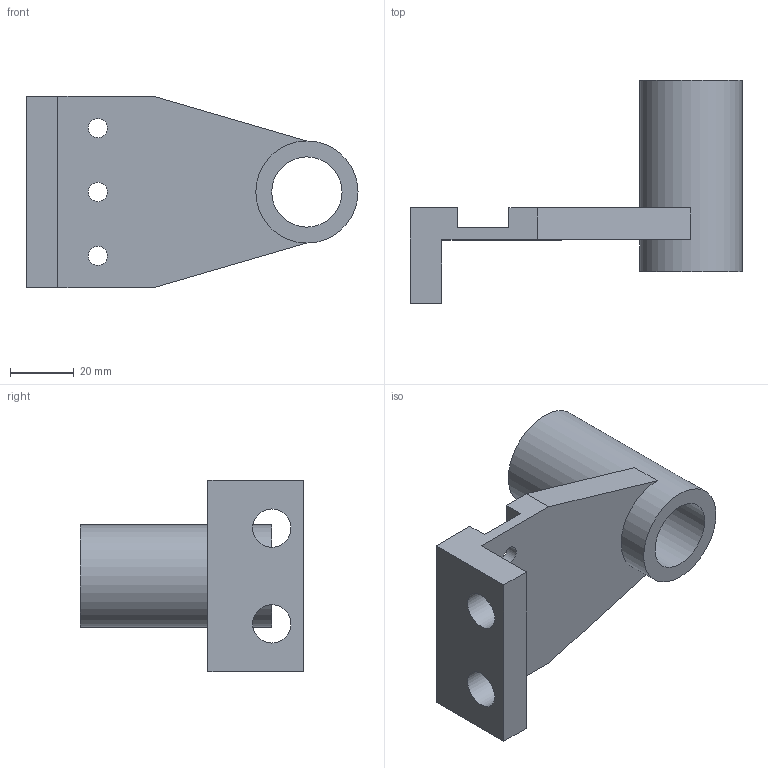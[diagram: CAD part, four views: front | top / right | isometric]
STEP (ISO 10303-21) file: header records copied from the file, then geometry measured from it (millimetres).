
FILE_DESCRIPTION( ( 'STEP Version 203' ), '1' );
FILE_NAME( 'E:/ANSYS_WB_14.0/ANSYS_WB_14.0_Manuscript - Copy/ANSYS_WB/c07/Tut02/Geom.stp', '08/28/19 10:55:20', ( 'SK-CADsoft' ), ( ' ' ), 'PSStep 21.0.47', 'DesignModeler STEP Output', ' ' );
FILE_SCHEMA( ( 'CONFIG_CONTROL_DESIGN' ) );
Length unit declared in the file: metre
Products named in the file (1): 1
Bounding box: 104 x 70 x 60 mm (x, y, z)
Volume: 70859.1 mm3; surface area: 25032.5 mm2
Topology: 1 solids, 1 shells, 22 faces, 64 edges, 44 vertices
Faces by surface type: plane 15, cylinder 7
Full cylindrical faces by diameter (mm): 6 x3, 12 x2, 22 x1, 32 x1
Entity records: 710 total; most frequent: DIRECTION 112, CARTESIAN_POINT 111, ORIENTED_EDGE 100, EDGE_CURVE 50, EDGE_LOOP 42, AXIS2_PLACEMENT_3D 39, VERTEX_POINT 38, LINE 34
